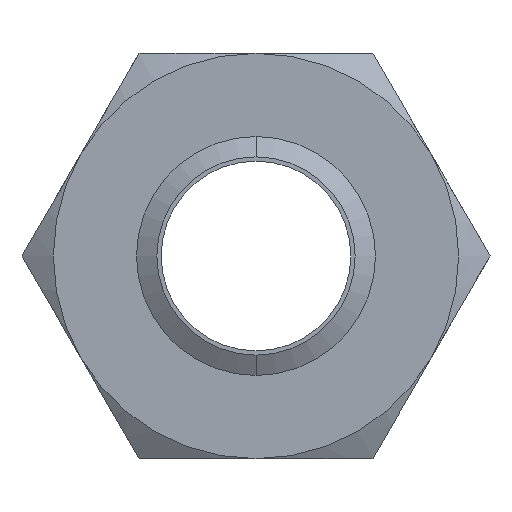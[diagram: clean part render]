
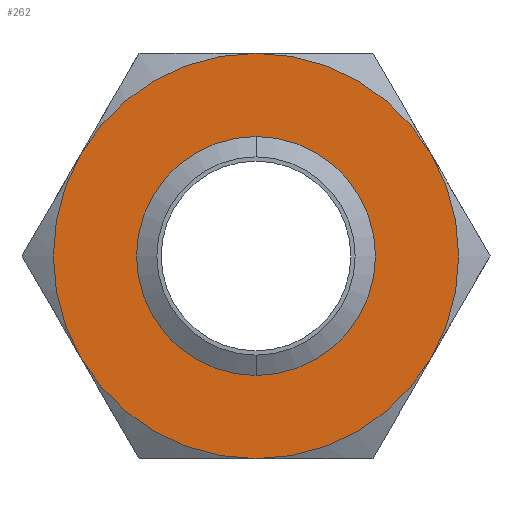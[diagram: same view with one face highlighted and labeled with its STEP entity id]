
A CAD part, front view. The second image highlights one B-rep face of the part: STEP entity #262.
In plain terms, the highlighted planar face has unit normal (0, -1, 0).
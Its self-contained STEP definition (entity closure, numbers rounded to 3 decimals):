
#89 = EDGE_CURVE ( 'NONE', #92, #179, #591, .T. ) ;
#92 = VERTEX_POINT ( 'NONE', #581 ) ;
#179 = VERTEX_POINT ( 'NONE', #741 ) ;
#235 = EDGE_CURVE ( 'NONE', #238, #236, #854, .T. ) ;
#236 = VERTEX_POINT ( 'NONE', #847 ) ;
#237 = ORIENTED_EDGE ( 'NONE', *, *, #235, .F. ) ;
#238 = VERTEX_POINT ( 'NONE', #846 ) ;
#239 = ORIENTED_EDGE ( 'NONE', *, *, #240, .F. ) ;
#240 = EDGE_CURVE ( 'NONE', #241, #253, #845, .T. ) ;
#241 = VERTEX_POINT ( 'NONE', #840 ) ;
#242 = ORIENTED_EDGE ( 'NONE', *, *, #314, .F. ) ;
#248 = EDGE_LOOP ( 'NONE', ( #254, #251, #239, #242, #237, #2197 ) ) ;
#249 = EDGE_CURVE ( 'NONE', #255, #250, #889, .T. ) ;
#250 = VERTEX_POINT ( 'NONE', #890 ) ;
#251 = ORIENTED_EDGE ( 'NONE', *, *, #252, .F. ) ;
#252 = EDGE_CURVE ( 'NONE', #253, #255, #884, .T. ) ;
#253 = VERTEX_POINT ( 'NONE', #879 ) ;
#254 = ORIENTED_EDGE ( 'NONE', *, *, #249, .F. ) ;
#255 = VERTEX_POINT ( 'NONE', #878 ) ;
#262 = ADVANCED_FACE ( 'NONE', ( #869, #868 ), #867, .F. ) ;
#314 = EDGE_CURVE ( 'NONE', #236, #241, #1028, .T. ) ;
#581 = CARTESIAN_POINT ( 'NONE',  ( 0., 0., -23.237 ) ) ;
#587 = DIRECTION ( 'NONE',  ( 0., 0., -1. ) ) ;
#588 = DIRECTION ( 'NONE',  ( 0., -1., 0. ) ) ;
#589 = CARTESIAN_POINT ( 'NONE',  ( 0., 0., 0. ) ) ;
#590 = AXIS2_PLACEMENT_3D ( 'NONE', #589, #588, #587 ) ;
#591 = CIRCLE ( 'NONE', #590, 23.237 ) ;
#741 = CARTESIAN_POINT ( 'NONE',  ( 0., 0., 23.237 ) ) ;
#840 = CARTESIAN_POINT ( 'NONE',  ( -41.136, 0., -23.75 ) ) ;
#841 = DIRECTION ( 'NONE',  ( 0., 0., 1. ) ) ;
#842 = DIRECTION ( 'NONE',  ( 0., 1., 0. ) ) ;
#843 = CARTESIAN_POINT ( 'NONE',  ( 0., 0., 0. ) ) ;
#844 = AXIS2_PLACEMENT_3D ( 'NONE', #843, #842, #841 ) ;
#845 = CIRCLE ( 'NONE', #844, 47.5 ) ;
#846 = CARTESIAN_POINT ( 'NONE',  ( 41.136, 0., -23.75 ) ) ;
#847 = CARTESIAN_POINT ( 'NONE',  ( 0., 0., -47.5 ) ) ;
#848 = DIRECTION ( 'NONE',  ( 0., 0., 1. ) ) ;
#849 = DIRECTION ( 'NONE',  ( 0., 1., 0. ) ) ;
#850 = CARTESIAN_POINT ( 'NONE',  ( 0., 0., 0. ) ) ;
#851 = AXIS2_PLACEMENT_3D ( 'NONE', #850, #849, #848 ) ;
#854 = CIRCLE ( 'NONE', #851, 47.5 ) ;
#863 = DIRECTION ( 'NONE',  ( 0., 0., 1. ) ) ;
#864 = DIRECTION ( 'NONE',  ( 0., 1., 0. ) ) ;
#865 = CARTESIAN_POINT ( 'NONE',  ( 27.424, 0., -47.5 ) ) ;
#866 = AXIS2_PLACEMENT_3D ( 'NONE', #865, #864, #863 ) ;
#867 = PLANE ( 'NONE',  #866 ) ;
#868 = FACE_BOUND ( 'NONE', #2221, .T. ) ;
#869 = FACE_OUTER_BOUND ( 'NONE', #248, .T. ) ;
#878 = CARTESIAN_POINT ( 'NONE',  ( 0., 0., 47.5 ) ) ;
#879 = CARTESIAN_POINT ( 'NONE',  ( -41.136, 0., 23.75 ) ) ;
#880 = DIRECTION ( 'NONE',  ( 0., 0., 1. ) ) ;
#881 = DIRECTION ( 'NONE',  ( 0., 1., 0. ) ) ;
#882 = CARTESIAN_POINT ( 'NONE',  ( 0., 0., 0. ) ) ;
#883 = AXIS2_PLACEMENT_3D ( 'NONE', #882, #881, #880 ) ;
#884 = CIRCLE ( 'NONE', #883, 47.5 ) ;
#885 = DIRECTION ( 'NONE',  ( 0., 0., 1. ) ) ;
#886 = DIRECTION ( 'NONE',  ( 0., 1., 0. ) ) ;
#887 = CARTESIAN_POINT ( 'NONE',  ( 0., 0., 0. ) ) ;
#888 = AXIS2_PLACEMENT_3D ( 'NONE', #887, #886, #885 ) ;
#889 = CIRCLE ( 'NONE', #888, 47.5 ) ;
#890 = CARTESIAN_POINT ( 'NONE',  ( 41.136, 0., 23.75 ) ) ;
#1024 = DIRECTION ( 'NONE',  ( 0., 0., 1. ) ) ;
#1025 = DIRECTION ( 'NONE',  ( 0., 1., 0. ) ) ;
#1026 = CARTESIAN_POINT ( 'NONE',  ( 0., 0., 0. ) ) ;
#1027 = AXIS2_PLACEMENT_3D ( 'NONE', #1026, #1025, #1024 ) ;
#1028 = CIRCLE ( 'NONE', #1027, 47.5 ) ;
#1939 = CARTESIAN_POINT ( 'NONE',  ( 0., 0., 0. ) ) ;
#1983 = DIRECTION ( 'NONE',  ( 0., 0., 1. ) ) ;
#1984 = DIRECTION ( 'NONE',  ( 0., 1., 0. ) ) ;
#1985 = CARTESIAN_POINT ( 'NONE',  ( 0., 0., 0. ) ) ;
#1986 = AXIS2_PLACEMENT_3D ( 'NONE', #1985, #1984, #1983 ) ;
#1987 = CIRCLE ( 'NONE', #1986, 47.5 ) ;
#1999 = DIRECTION ( 'NONE',  ( 0., 0., -1. ) ) ;
#2000 = DIRECTION ( 'NONE',  ( 0., -1., 0. ) ) ;
#2001 = AXIS2_PLACEMENT_3D ( 'NONE', #1939, #2000, #1999 ) ;
#2002 = CIRCLE ( 'NONE', #2001, 23.237 ) ;
#2197 = ORIENTED_EDGE ( 'NONE', *, *, #2219, .F. ) ;
#2212 = EDGE_CURVE ( 'NONE', #179, #92, #2002, .T. ) ;
#2219 = EDGE_CURVE ( 'NONE', #250, #238, #1987, .T. ) ;
#2220 = ORIENTED_EDGE ( 'NONE', *, *, #2212, .F. ) ;
#2221 = EDGE_LOOP ( 'NONE', ( #2228, #2220 ) ) ;
#2228 = ORIENTED_EDGE ( 'NONE', *, *, #89, .F. ) ;
